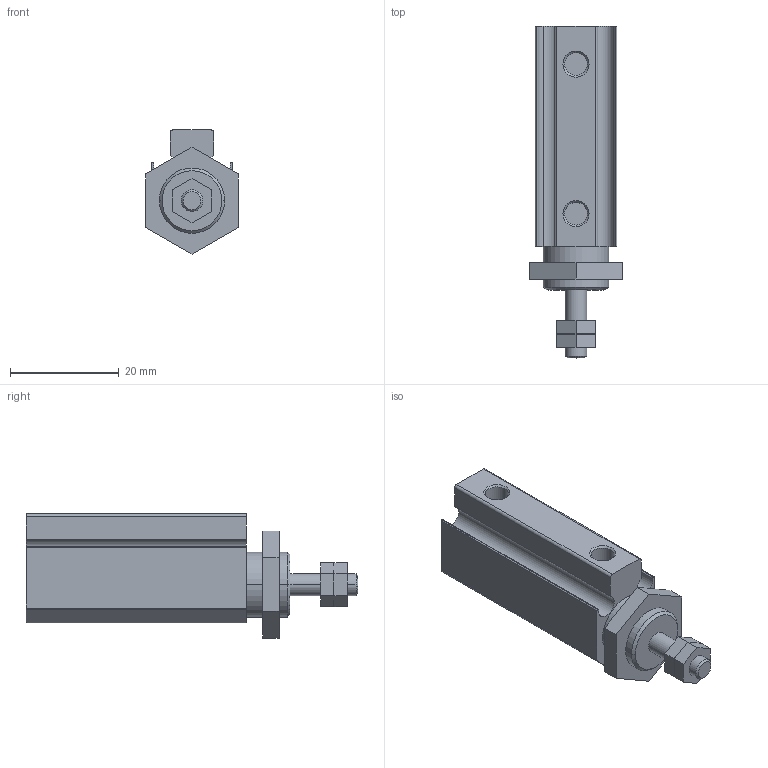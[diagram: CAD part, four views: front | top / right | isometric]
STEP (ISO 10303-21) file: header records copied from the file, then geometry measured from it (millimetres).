
FILE_DESCRIPTION((''),'2;1');
FILE_NAME('B:\CHANTO-3D-已完成\NEW\AAP\AAP-3D\AAP10X15.stp','2010-08-19T19:48:16',('Administrator'),(''),'Autodesk Inventor 8','Autodesk Inventor 8','');
FILE_SCHEMA(('AUTOMOTIVE_DESIGN { 1 0 10303 214 1 1 1 1 }'));
Length unit declared in the file: millimetre
Products named in the file (1): AAP10X15
Bounding box: 17 x 61 x 22.82 mm (x, y, z)
Volume: 10881.2 mm3; surface area: 4634.3 mm2
Topology: 1 solids, 1 shells, 76 faces, 184 edges, 120 vertices
Faces by surface type: plane 40, cylinder 28, cone 8
Entity records: 2251 total; most frequent: DIRECTION 402, CARTESIAN_POINT 381, ORIENTED_EDGE 368, EDGE_CURVE 184, AXIS2_PLACEMENT_3D 141, VERTEX_POINT 120, VECTOR 120, LINE 120
